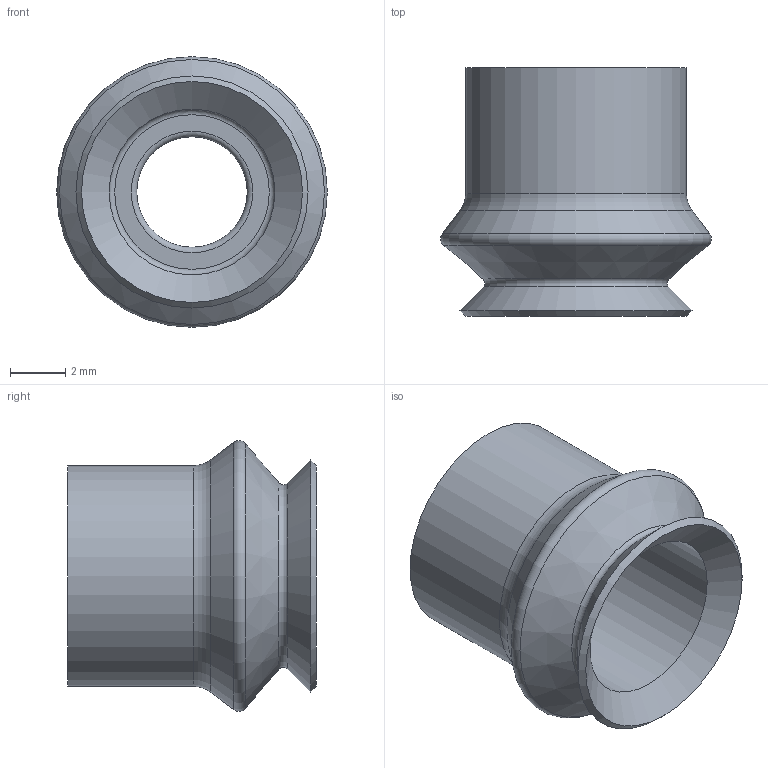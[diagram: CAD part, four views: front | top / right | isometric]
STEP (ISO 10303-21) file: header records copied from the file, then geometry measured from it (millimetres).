
FILE_DESCRIPTION(('STEP AP203'),'1');
FILE_NAME('_3D.stp','2025-02-13T07:49:37',(' '),(' '),'Spatial InterOp 3D',' ',' ');
FILE_SCHEMA(('CONFIG_CONTROL_DESIGN'));
Length unit declared in the file: millimetre
Products named in the file (1): 1
Bounding box: 9.8 x 9 x 9.8 mm (x, y, z)
Volume: 238.2 mm3; surface area: 485.2 mm2
Topology: 1 solids, 1 shells, 16 faces, 37 edges, 23 vertices
Faces by surface type: torus 6, cone 5, cylinder 3, plane 2
Full cylindrical faces by diameter (mm): 4 x1, 6 x1, 8 x1
Entity records: 372 total; most frequent: DIRECTION 66, CARTESIAN_POINT 49, AXIS2_PLACEMENT_3D 33, EDGE_LOOP 32, ORIENTED_EDGE 32, FACE_OUTER_BOUND 25, ADVANCED_FACE 16, EDGE_CURVE 16
